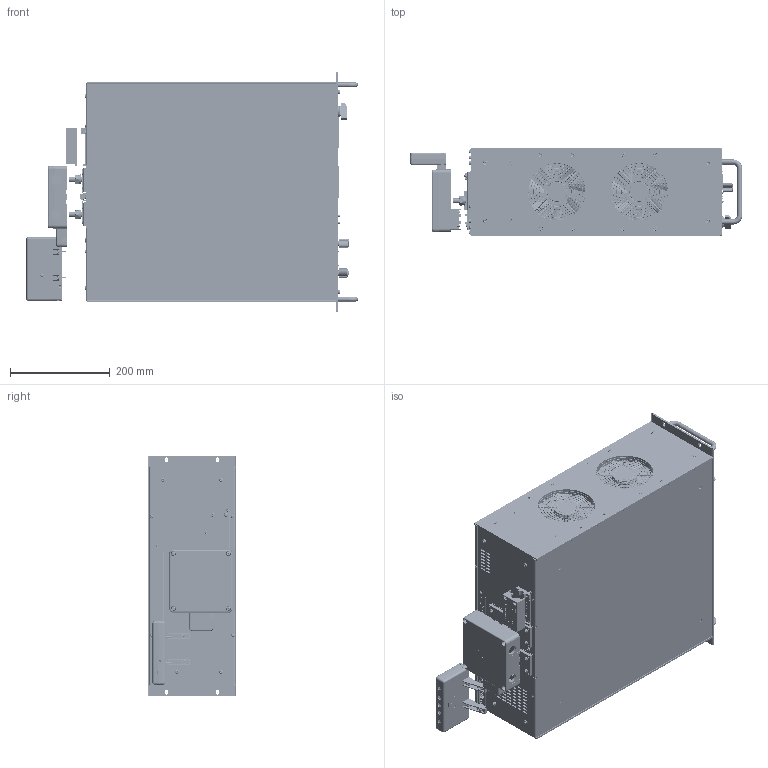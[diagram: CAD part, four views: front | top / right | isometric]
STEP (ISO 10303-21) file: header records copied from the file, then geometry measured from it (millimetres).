
FILE_DESCRIPTION(/* description */ (''),/* implementation_level */ '2;1');
FILE_NAME(/* name */ 'A:\Data\SM6000\SM6000 presentation\step file\SM30-200\SM30-200.stp',/* time_stamp */ '2022-11-11T14:05:33+01:00',/* author */ ('Simon'),/* organization */ (''),/* preprocessor_version */ 'ST-DEVELOPER v18.1',/* originating_system */ 'Autodesk Inventor 2022',/* authorisation */ '');
FILE_SCHEMA (('AUTOMOTIVE_DESIGN { 1 0 10303 214 3 1 1 }'));
Products named in the file (1): SM30-200simplify
Bounding box: 666 x 177 x 482.5 mm (x, y, z)
Volume: 38471878.9 mm3; surface area: 1155474.4 mm2
Topology: 5 solids, 5 shells, 9639 faces, 25367 edges, 16423 vertices
Faces by surface type: plane 6000, bspline 1397, cylinder 1301, cone 691, torus 208, sphere 42
Full cylindrical faces by diameter (mm): 0.339 x5, 0.5 x22, 1.4 x16, 1.5 x1, 2.459 x2, 2.5 x4, 2.9 x1, 3 x25, 3.2 x20, 3.242 x10, 3.5 x18, 4 x43, 4.1 x23, 4.2 x4, 4.3 x1, 4.5 x18, 5 x1, 5.5 x6, 5.6 x4, 6 x13, 6.2 x3, 6.5 x2, 7 x8, 7.2 x8, 7.5 x2, 7.7 x4, 7.8 x32, 8.5 x2, 8.8 x2, 10 x17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
Entity records: 324959 total; most frequent: CARTESIAN_POINT 88595, ORIENTED_EDGE 50588, DIRECTION 41232, EDGE_CURVE 25294, VERTEX_POINT 16423, LINE 15732, VECTOR 15732, AXIS2_PLACEMENT_3D 12750
